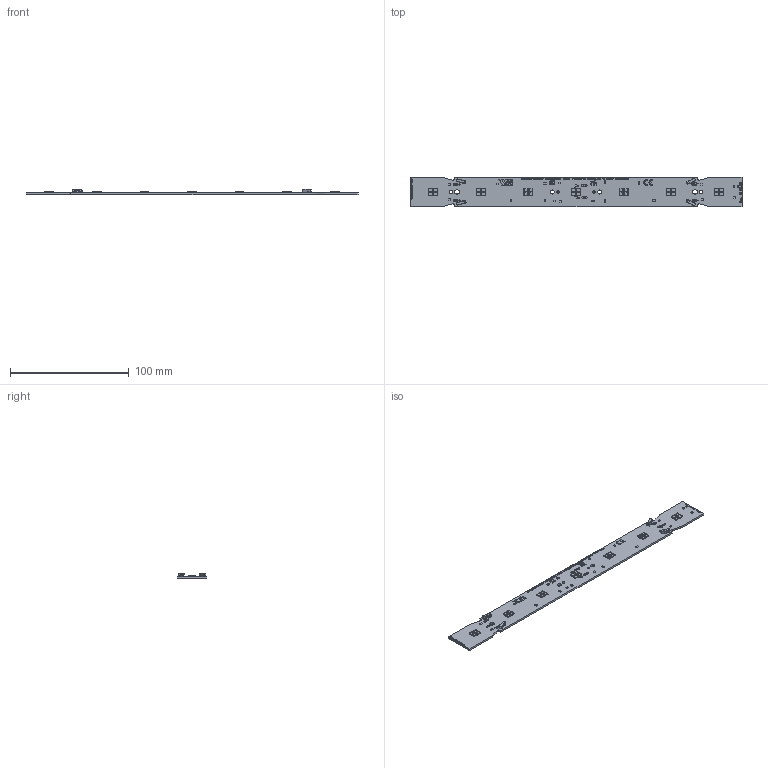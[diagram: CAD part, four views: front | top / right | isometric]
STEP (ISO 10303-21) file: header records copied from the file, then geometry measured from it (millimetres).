
FILE_DESCRIPTION(('Creo Elements/Direct Modeling STEP Export'),'2;1');
FILE_NAME('K-1464-01-S2X_3D-Model_MLC SC W2.5_280_xS_28_yzz_yzz G2_Black.stp','2025-10-15T10:50:49',(''),(''),'PTC Creo Elements/Direct Modeling STEP processor for AP214 (Solid Model)','PTC Creo Elements/Direct Modeling 19.0E 27-Jun-2016 (C) Parametric Technology GmbH','');
FILE_SCHEMA(('AUTOMOTIVE_DESIGN { 1 0 10303 214 1 1 1 1 }'));
Length unit declared in the file: millimetre
Products named in the file (155): p1.1; p1; Plate; MCU_0805.prt.7; MCU_0805.prt.3; MCU_0805.prt.2; MCU_0805.prt.2.1; MCU_0805.prt.2.1.1; MCU_0805.prt.2.1.2.2; MCU_0805.prt.2.1.2.2.2.1; MCU_0805.prt.2.1.3; MCU_0805.prt.2.1.4; MCU_0805.prt.2.1.2.1; MCU_0805.stp; 2065-101_998-403.prt.2.2; Konektor_STC_Wago_2065-101_998-403.stp; ______STEP.ASM; _____-0_STEP.PRT.2; 2835PCT_3D_MODEL_STEP.ASM; 2835PCT_3D_MODEL_ORIGIN_CORRECT.ASM; J_SERIES_2835.STEP; Addressa-Plate.18; Addressa-Plate.13; Addressa-Plate.7; Addressa-Plate.4; Addressa-Plate.24; Addressa-Plate.20; Addressa-Plate.35; Addressa-Plate.5; Addressa-Plate.11; Addressa-Plate.21; Addressa-Plate.39; Addressa-Plate.29; Addressa-Plate.41; Addressa-Plate; Addressa-Plate.44; Addressa-Plate.40; Addressa-Plate.6; Addressa-Plate.10; Addressa-Plate.32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
Assembly tree (187 placements, depth 4):
  p1.1
    p1.1
  p1
  Plate
  MCU_0805.stp
    MCU_0805.prt.2.1.4  x5
    MCU_0805.prt.2.1.2.1  x4
    MCU_0805.prt.2.1.3
    MCU_0805.prt.2.1.2.2.2.1
    MCU_0805.prt.2.1.2.2  x3
    MCU_0805.prt.2.1.1
    MCU_0805.prt.2.1
    MCU_0805.prt.2
    MCU_0805.prt.3
    MCU_0805.prt.7
  Konektor_STC_Wago_2065-101_998-403.stp
    2065-101_998-403.prt.2.2  x4
Bounding box: 279 x 25 x 4.3 mm (x, y, z)
Volume: 11057.3 mm3; surface area: 16801.5 mm2
Topology: 156 solids, 296 shells, 7653 faces, 20777 edges, 13612 vertices
Faces by surface type: plane 5952, cylinder 1701
Entity records: 128666 total; most frequent: CARTESIAN_POINT 17841, ORIENTED_EDGE 17386, DIRECTION 17056, EDGE_CURVE 8689, VECTOR 6976, LINE 6976, VERTEX_POINT 5796, AXIS2_PLACEMENT_3D 5040
